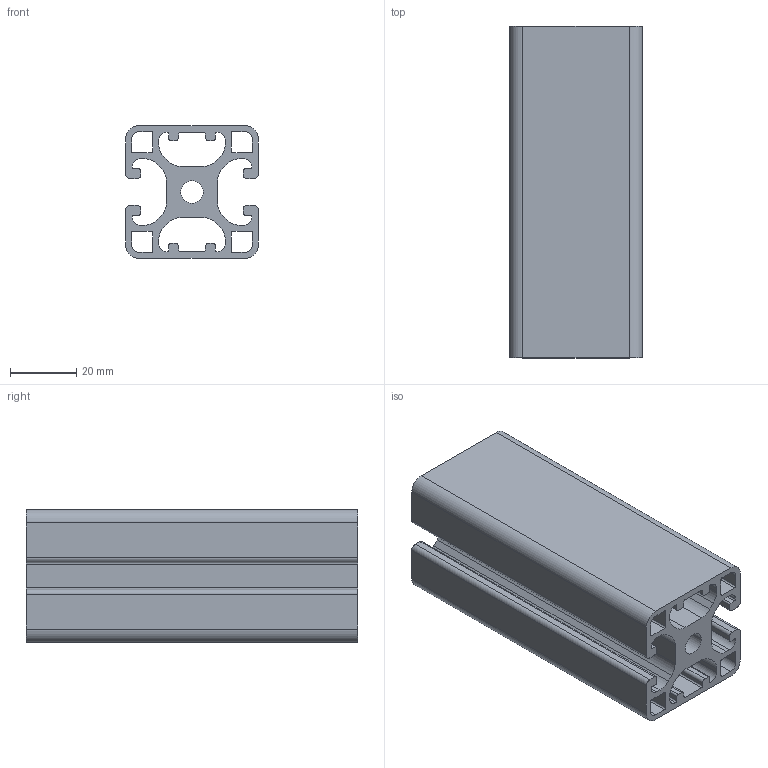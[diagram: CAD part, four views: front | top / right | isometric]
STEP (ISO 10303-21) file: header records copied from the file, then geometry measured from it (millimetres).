
FILE_DESCRIPTION(('STEP AP214'),'1');
FILE_NAME('cctmp_5F1BA6CD-A210-4CCB-B64D-5025910905F9_2019_8_13_14_18_41_577..stp','2019-08-13T12:18:41',('item Industrietechnik GmbH'),('CADClick - www.CADClick.com'),'Spatial InterOp 3D',' ','unknown authorization');
FILE_SCHEMA(('AUTOMOTIVE_DESIGN'));
Length unit declared in the file: millimetre
Products named in the file (1): item_0040451_Profile 8 40x40 2N180 light_L=100
Bounding box: 40 x 100 x 40 mm (x, y, z)
Volume: 69120.2 mm3; surface area: 49964.1 mm2
Topology: 1 solids, 1 shells, 152 faces, 450 edges, 300 vertices
Faces by surface type: cylinder 78, plane 74
Entity records: 6398 total; most frequent: DIRECTION 912, CARTESIAN_POINT 903, ORIENTED_EDGE 900, EDGE_CURVE 450, AXIS2_PLACEMENT_3D 309, VERTEX_POINT 300, LINE 294, VECTOR 294
